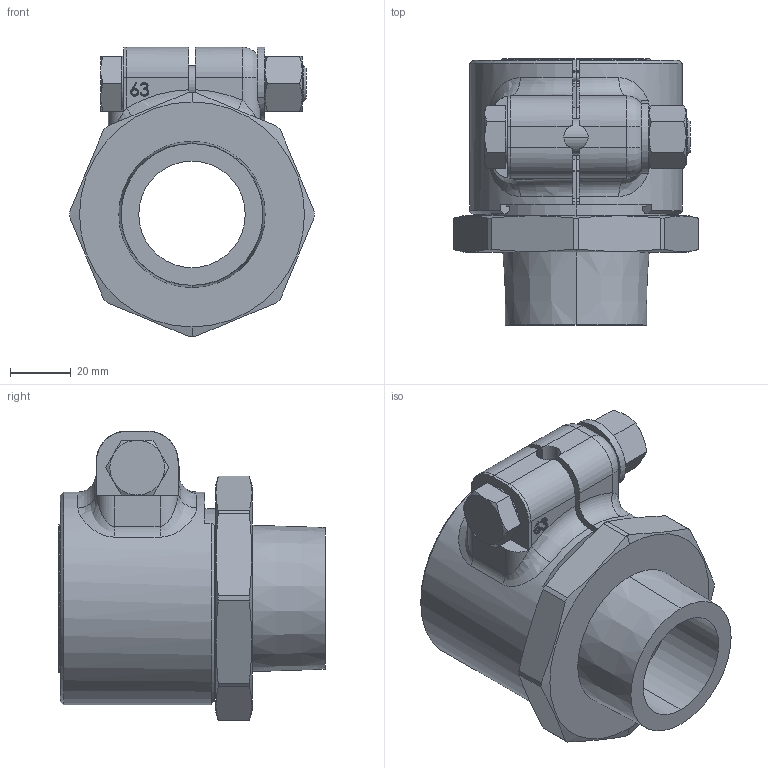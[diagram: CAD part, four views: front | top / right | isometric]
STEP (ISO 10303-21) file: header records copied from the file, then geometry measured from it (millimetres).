
FILE_DESCRIPTION (( 'STEP AP203' ), '1' );
FILE_NAME ('KP_C14- 63-54M.step', '2011-08-08T12:03:06', ( '' ), ( '' ), 'SwSTEP 2.0', 'SolidWorks 2011', '' );
FILE_SCHEMA (( 'CONFIG_CONTROL_DESIGN' ));
Length unit declared in the file: millimetre
Products named in the file (1): KP_C14- 63-54M
Bounding box: 80.5 x 87.5 x 95.25 mm (x, y, z)
Volume: 154827.5 mm3; surface area: 68030.7 mm2
Topology: 3 solids, 3 shells, 318 faces, 763 edges, 456 vertices
Faces by surface type: cylinder 98, plane 88, bspline 50, cone 46, torus 28, sphere 8
Entity records: 12611 total; most frequent: CARTESIAN_POINT 5466, ORIENTED_EDGE 1510, DIRECTION 1442, EDGE_CURVE 755, AXIS2_PLACEMENT_3D 583, VERTEX_POINT 456, EDGE_LOOP 337, FACE_OUTER_BOUND 318
